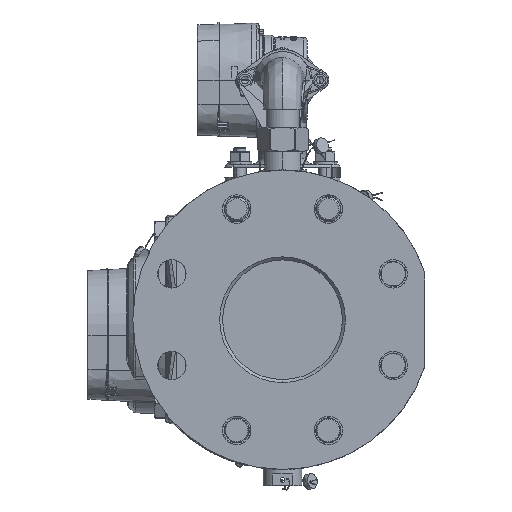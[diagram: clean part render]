
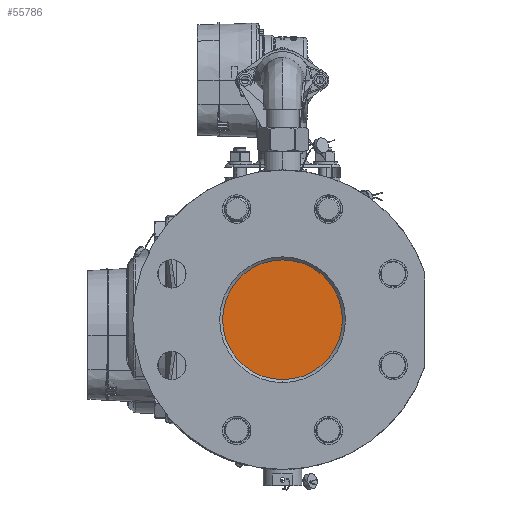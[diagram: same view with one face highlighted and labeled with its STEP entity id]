
A CAD part, left-side view. The second image highlights one B-rep face of the part: STEP entity #55786.
In plain terms, the highlighted planar face has unit normal (-1, 0, 0).
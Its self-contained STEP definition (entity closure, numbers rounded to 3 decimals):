
#5694 = PLANE ( 'NONE',  #196202 ) ;
#20561 = CARTESIAN_POINT ( 'NONE',  ( -98., 0., -40. ) ) ;
#55786 = ADVANCED_FACE ( 'NONE', ( #102310 ), #5694, .F. ) ;
#76810 = DIRECTION ( 'NONE',  ( -1., 0., 0. ) ) ;
#79850 = EDGE_CURVE ( 'NONE', #233208, #158535, #302070, .T. ) ;
#81678 = CARTESIAN_POINT ( 'NONE',  ( -98., 0., 0. ) ) ;
#85431 = EDGE_LOOP ( 'NONE', ( #189905, #172865 ) ) ;
#102310 = FACE_OUTER_BOUND ( 'NONE', #85431, .T. ) ;
#106976 = DIRECTION ( 'NONE',  ( 1., 0., 0. ) ) ;
#126335 = CARTESIAN_POINT ( 'NONE',  ( -98., 0., 40. ) ) ;
#127526 = DIRECTION ( 'NONE',  ( 0., 0., -1. ) ) ;
#129706 = EDGE_CURVE ( 'NONE', #158535, #233208, #272569, .T. ) ;
#140142 = AXIS2_PLACEMENT_3D ( 'NONE', #248578, #224750, #247017 ) ;
#158535 = VERTEX_POINT ( 'NONE', #126335 ) ;
#172865 = ORIENTED_EDGE ( 'NONE', *, *, #79850, .T. ) ;
#189905 = ORIENTED_EDGE ( 'NONE', *, *, #129706, .T. ) ;
#196202 = AXIS2_PLACEMENT_3D ( 'NONE', #81678, #106976, #127526 ) ;
#216822 = AXIS2_PLACEMENT_3D ( 'NONE', #312822, #76810, #263755 ) ;
#224750 = DIRECTION ( 'NONE',  ( -1., 0., 0. ) ) ;
#233208 = VERTEX_POINT ( 'NONE', #20561 ) ;
#247017 = DIRECTION ( 'NONE',  ( 0., 0., 1. ) ) ;
#248578 = CARTESIAN_POINT ( 'NONE',  ( -98., 0., 0. ) ) ;
#263755 = DIRECTION ( 'NONE',  ( 0., 0., 1. ) ) ;
#272569 = CIRCLE ( 'NONE', #216822, 40. ) ;
#302070 = CIRCLE ( 'NONE', #140142, 40. ) ;
#312822 = CARTESIAN_POINT ( 'NONE',  ( -98., 0., 0. ) ) ;
